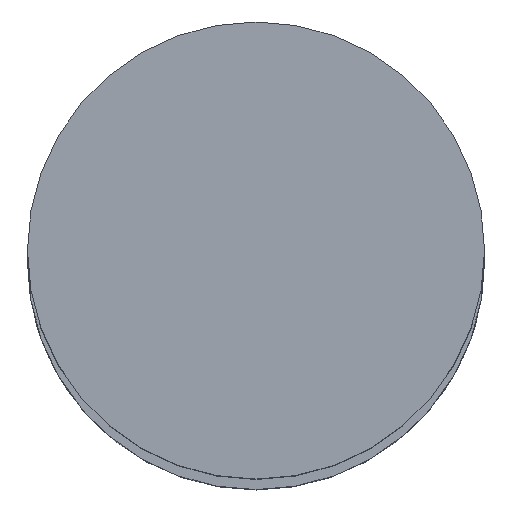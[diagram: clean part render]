
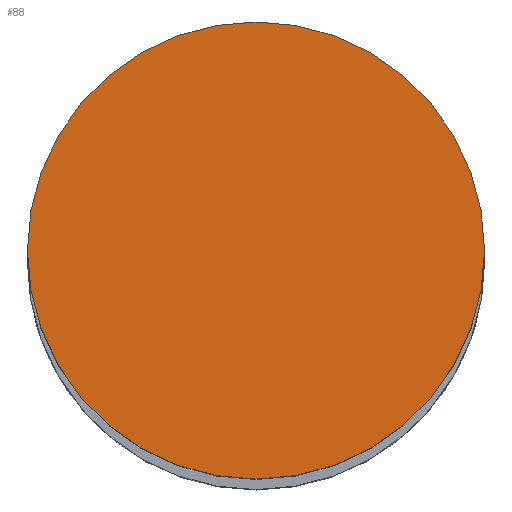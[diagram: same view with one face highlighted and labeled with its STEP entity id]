
A CAD part, top view. The second image highlights one B-rep face of the part: STEP entity #88.
In plain terms, the highlighted planar face has unit normal (0, 0, 1).
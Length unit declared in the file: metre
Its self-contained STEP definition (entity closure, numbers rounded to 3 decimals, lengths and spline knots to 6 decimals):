
#88=ADVANCED_FACE('25:217',(#175),#176,.T.);
#175=FACE_OUTER_BOUND('',#263,.T.);
#176=PLANE('',#264);
#263=EDGE_LOOP('',(#408,#409));
#264=AXIS2_PLACEMENT_3D('',#410,#411,#412);
#408=ORIENTED_EDGE('',*,*,#542,.F.);
#409=ORIENTED_EDGE('',*,*,#532,.F.);
#410=CARTESIAN_POINT('',(0.0,0.0,3.074));
#411=DIRECTION('',(0.0,0.0,1.0));
#412=DIRECTION('',(1.0,0.0,0.0));
#532=EDGE_CURVE('',#643,#645,#646,.F.);
#542=EDGE_CURVE('',#645,#643,#657,.F.);
#643=VERTEX_POINT('',#775);
#645=VERTEX_POINT('',#778);
#646=CIRCLE('',#779,0.0155);
#657=CIRCLE('',#793,0.0155);
#775=CARTESIAN_POINT('',(0.015408,0.000095,3.074));
#778=CARTESIAN_POINT('',(-0.015592,0.000095,3.074));
#779=AXIS2_PLACEMENT_3D('',#907,#908,#909);
#793=AXIS2_PLACEMENT_3D('',#919,#920,#921);
#907=CARTESIAN_POINT('',(-0.000092,0.000095,3.074));
#908=DIRECTION('',(0.0,0.0,1.0));
#909=DIRECTION('',(1.0,0.0,0.0));
#919=CARTESIAN_POINT('',(-0.000092,0.000095,3.074));
#920=DIRECTION('',(0.0,0.0,1.0));
#921=DIRECTION('',(1.0,0.0,0.0));
